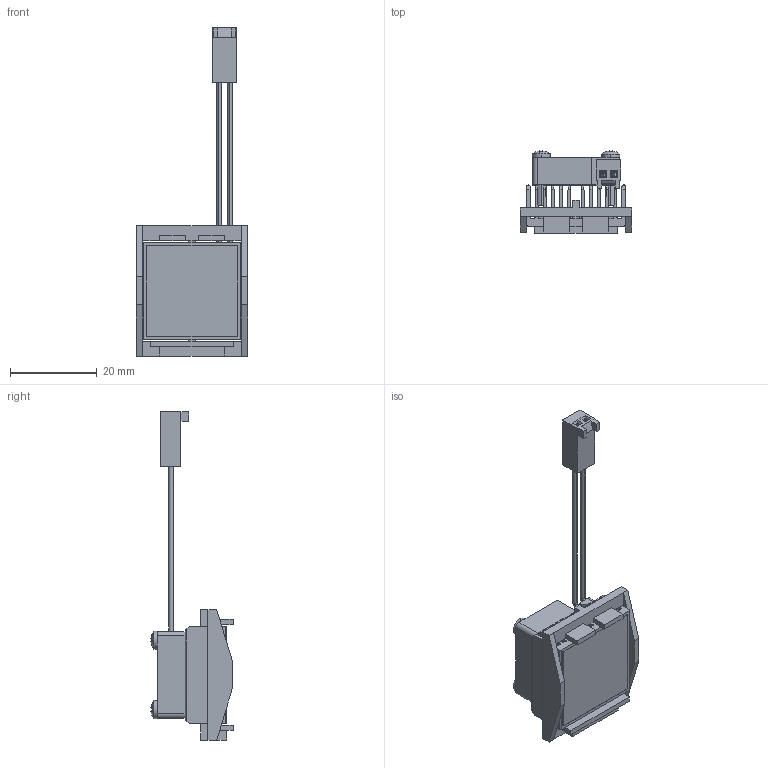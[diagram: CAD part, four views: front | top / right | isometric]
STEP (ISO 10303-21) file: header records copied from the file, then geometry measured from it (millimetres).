
FILE_DESCRIPTION (( 'STEP AP214' ), '1' );
FILE_NAME ('FI23-1.7+BU.STEP', '2023-03-14T10:26:02', ( '' ), ( '' ), 'SwSTEP 2.0', 'SolidWorks 2020', '' );
FILE_SCHEMA (( 'AUTOMOTIVE_DESIGN' ));
Length unit declared in the file: millimetre
Products named in the file (1): FI23-1.7+BU
Bounding box: 25.7 x 18.98 x 75.75 mm (x, y, z)
Volume: 5096.2 mm3; surface area: 11328 mm2
Topology: 10 solids, 10 shells, 405 faces, 1110 edges, 715 vertices
Faces by surface type: plane 246, cylinder 108, bspline 48, sphere 3
Entity records: 18818 total; most frequent: CARTESIAN_POINT 4469, ORIENTED_EDGE 2170, DIRECTION 1806, EDGE_CURVE 1085, LINE 736, VECTOR 736, VERTEX_POINT 712, AXIS2_PLACEMENT_3D 535
